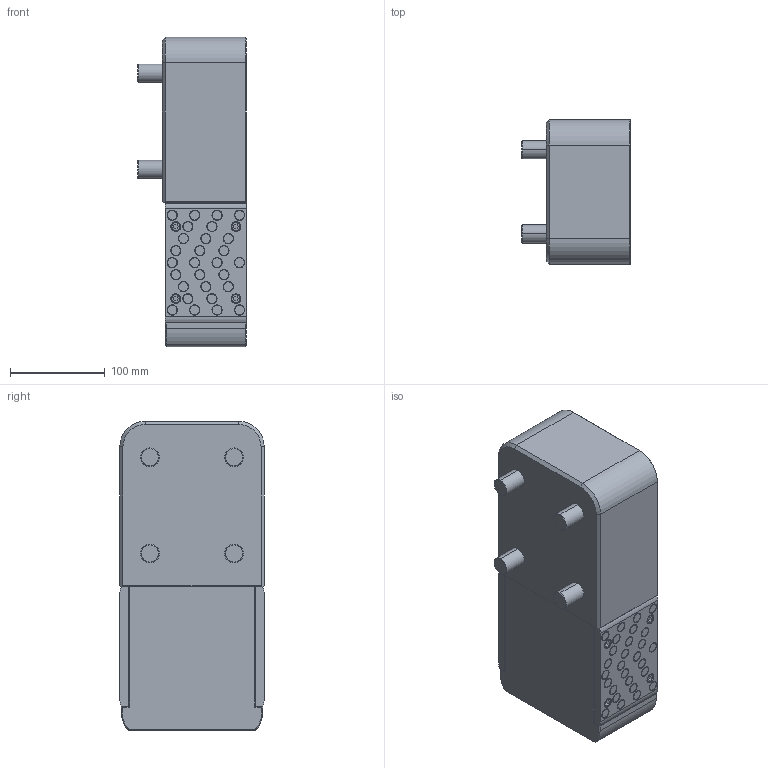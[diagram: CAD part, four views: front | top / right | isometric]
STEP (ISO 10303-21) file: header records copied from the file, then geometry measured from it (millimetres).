
FILE_DESCRIPTION (( 'STEP AP203' ), '1' );
FILE_NAME ('BLN350L13.step', '2017-02-07T15:58:00', ( '' ), ( '' ), 'SwSTEP 2.0', 'SolidWorks 2014', '' );
FILE_SCHEMA (( 'CONFIG_CONTROL_DESIGN' ));
Length unit declared in the file: inch
Products named in the file (5): BLN350L13; 14-20x50 SHCS; 34-10x375 SHCS; BLS350L5; BLB350L13
Assembly tree (15 placements, depth 2):
  BLN350L13
    BLB350L13
    BLS350L5  x2
    14-20x50 SHCS  x8
    34-10x375 SHCS  x4
Bounding box: 115.06 x 152.4 x 327.02 mm (x, y, z)
Volume: 4303851.3 mm3; surface area: 297961.2 mm2
Topology: 15 solids, 15 shells, 749 faces, 1607 edges, 1027 vertices
Faces by surface type: cylinder 358, plane 305, cone 78, torus 8
Entity records: 10974 total; most frequent: DIRECTION 1947, CARTESIAN_POINT 1721, ORIENTED_EDGE 1578, EDGE_CURVE 789, AXIS2_PLACEMENT_3D 783, VERTEX_POINT 507, EDGE_LOOP 460, CIRCLE 398
